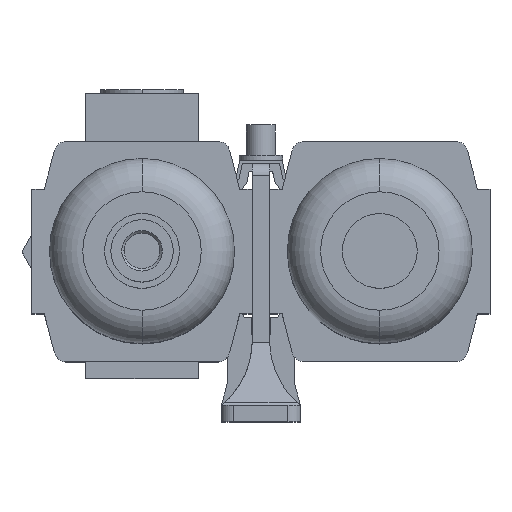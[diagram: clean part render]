
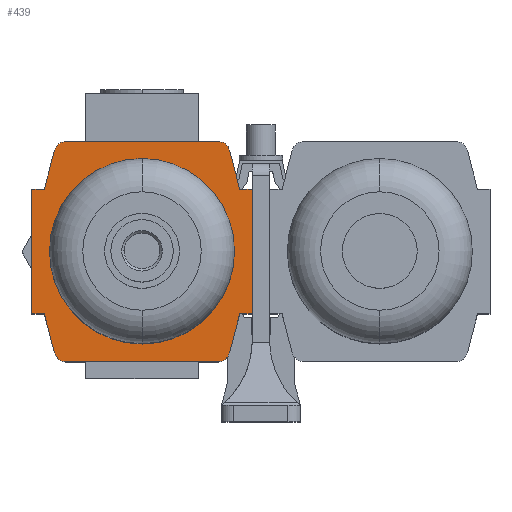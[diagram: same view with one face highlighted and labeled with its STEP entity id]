
A CAD part, top view. The second image highlights one B-rep face of the part: STEP entity #439.
In plain terms, the highlighted planar face has unit normal (0, 0, 1).
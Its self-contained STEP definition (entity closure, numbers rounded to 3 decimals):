
#148 = EDGE_CURVE ( 'NONE', #12002, #756, #15115, .T. ) ;
#219 = CARTESIAN_POINT ( 'NONE',  ( 26.5, 15., 0. ) ) ;
#250 = VERTEX_POINT ( 'NONE', #15457 ) ;
#423 = CIRCLE ( 'NONE', #1810, 3. ) ;
#431 = CARTESIAN_POINT ( 'NONE',  ( -23.5, 15., 0. ) ) ;
#439 = ADVANCED_FACE ( 'NONE', ( #6471, #4460 ), #3166, .F. ) ;
#461 = DIRECTION ( 'NONE',  ( 1., 0., 0. ) ) ;
#506 = CARTESIAN_POINT ( 'NONE',  ( -26.5, -15., 0. ) ) ;
#672 = CIRCLE ( 'NONE', #3128, 3. ) ;
#756 = VERTEX_POINT ( 'NONE', #1523 ) ;
#804 = DIRECTION ( 'NONE',  ( 1., 0., 0. ) ) ;
#1038 = VECTOR ( 'NONE', #4096, 1000. ) ;
#1290 = CIRCLE ( 'NONE', #2929, 15. ) ;
#1319 = CARTESIAN_POINT ( 'NONE',  ( 26.5, -15., 0. ) ) ;
#1473 = VERTEX_POINT ( 'NONE', #8000 ) ;
#1523 = CARTESIAN_POINT ( 'NONE',  ( -21.085, 24.257, 0. ) ) ;
#1556 = ORIENTED_EDGE ( 'NONE', *, *, #5618, .F. ) ;
#1715 = VECTOR ( 'NONE', #11298, 1000. ) ;
#1810 = AXIS2_PLACEMENT_3D ( 'NONE', #3086, #7869, #13709 ) ;
#1880 = ORIENTED_EDGE ( 'NONE', *, *, #2439, .F. ) ;
#1963 = DIRECTION ( 'NONE',  ( 0., 0., -1. ) ) ;
#1969 = EDGE_CURVE ( 'NONE', #8671, #2712, #16013, .T. ) ;
#2100 = ORIENTED_EDGE ( 'NONE', *, *, #10538, .T. ) ;
#2185 = LINE ( 'NONE', #4603, #9982 ) ;
#2281 = CARTESIAN_POINT ( 'NONE',  ( -21.085, -24.257, 0. ) ) ;
#2439 = EDGE_CURVE ( 'NONE', #9685, #14441, #16723, .T. ) ;
#2561 = VERTEX_POINT ( 'NONE', #10715 ) ;
#2567 = AXIS2_PLACEMENT_3D ( 'NONE', #6457, #11465, #14053 ) ;
#2712 = VERTEX_POINT ( 'NONE', #1319 ) ;
#2764 = CARTESIAN_POINT ( 'NONE',  ( -18.182, 26.5, 0. ) ) ;
#2799 = EDGE_CURVE ( 'NONE', #1473, #10179, #10534, .T. ) ;
#2847 = ORIENTED_EDGE ( 'NONE', *, *, #5612, .F. ) ;
#2929 = AXIS2_PLACEMENT_3D ( 'NONE', #11857, #15758, #12987 ) ;
#2970 = EDGE_CURVE ( 'NONE', #2712, #1473, #12421, .T. ) ;
#3086 = CARTESIAN_POINT ( 'NONE',  ( 18.182, -23.5, 0. ) ) ;
#3128 = AXIS2_PLACEMENT_3D ( 'NONE', #9583, #12340, #9661 ) ;
#3166 = PLANE ( 'NONE',  #13594 ) ;
#3277 = CARTESIAN_POINT ( 'NONE',  ( -18.182, 26.5, 0. ) ) ;
#3390 = CIRCLE ( 'NONE', #13034, 15. ) ;
#3596 = ORIENTED_EDGE ( 'NONE', *, *, #148, .F. ) ;
#3608 = CARTESIAN_POINT ( 'NONE',  ( 0., 0., 0. ) ) ;
#3659 = ORIENTED_EDGE ( 'NONE', *, *, #8155, .F. ) ;
#3670 = EDGE_CURVE ( 'NONE', #9771, #9685, #13067, .T. ) ;
#3683 = VECTOR ( 'NONE', #5694, 1000. ) ;
#3717 = CARTESIAN_POINT ( 'NONE',  ( -23.5, 15., 0. ) ) ;
#3911 = DIRECTION ( 'NONE',  ( -1., 0., 0. ) ) ;
#4096 = DIRECTION ( 'NONE',  ( 0., -1., 0. ) ) ;
#4460 = FACE_BOUND ( 'NONE', #8125, .T. ) ;
#4497 = ORIENTED_EDGE ( 'NONE', *, *, #12475, .F. ) ;
#4603 = CARTESIAN_POINT ( 'NONE',  ( -26.5, 15., 0. ) ) ;
#4995 = CARTESIAN_POINT ( 'NONE',  ( 23.5, 15., 0. ) ) ;
#5071 = DIRECTION ( 'NONE',  ( -1., 0., 0. ) ) ;
#5369 = VECTOR ( 'NONE', #8418, 1000. ) ;
#5612 = EDGE_CURVE ( 'NONE', #250, #9833, #16410, .T. ) ;
#5618 = EDGE_CURVE ( 'NONE', #11771, #13873, #9845, .T. ) ;
#5626 = VERTEX_POINT ( 'NONE', #12679 ) ;
#5694 = DIRECTION ( 'NONE',  ( 0.252, 0.968, 0. ) ) ;
#5746 = CARTESIAN_POINT ( 'NONE',  ( 18.182, 26.5, 0. ) ) ;
#5780 = ORIENTED_EDGE ( 'NONE', *, *, #11442, .F. ) ;
#5868 = DIRECTION ( 'NONE',  ( -1., 0., 0. ) ) ;
#6261 = CARTESIAN_POINT ( 'NONE',  ( 18.182, -26.5, 0. ) ) ;
#6457 = CARTESIAN_POINT ( 'NONE',  ( 18.182, 23.5, 0. ) ) ;
#6471 = FACE_OUTER_BOUND ( 'NONE', #13050, .T. ) ;
#6509 = VECTOR ( 'NONE', #7913, 1000. ) ;
#7020 = DIRECTION ( 'NONE',  ( 0., 0., -1. ) ) ;
#7083 = ORIENTED_EDGE ( 'NONE', *, *, #8191, .F. ) ;
#7301 = VERTEX_POINT ( 'NONE', #14748 ) ;
#7409 = ORIENTED_EDGE ( 'NONE', *, *, #9779, .F. ) ;
#7507 = ORIENTED_EDGE ( 'NONE', *, *, #2970, .F. ) ;
#7662 = CARTESIAN_POINT ( 'NONE',  ( 26.5, -15., 0. ) ) ;
#7869 = DIRECTION ( 'NONE',  ( 0., 0., -1. ) ) ;
#7913 = DIRECTION ( 'NONE',  ( 1., 0., 0. ) ) ;
#7933 = EDGE_CURVE ( 'NONE', #14441, #250, #9622, .T. ) ;
#8000 = CARTESIAN_POINT ( 'NONE',  ( 23.5, -15., 0. ) ) ;
#8094 = VECTOR ( 'NONE', #13382, 1000. ) ;
#8125 = EDGE_LOOP ( 'NONE', ( #2100, #13664 ) ) ;
#8155 = EDGE_CURVE ( 'NONE', #756, #11771, #672, .T. ) ;
#8191 = EDGE_CURVE ( 'NONE', #5626, #13921, #14853, .T. ) ;
#8279 = CARTESIAN_POINT ( 'NONE',  ( 21.085, 24.257, 0. ) ) ;
#8418 = DIRECTION ( 'NONE',  ( -0.252, 0.968, 0. ) ) ;
#8434 = CARTESIAN_POINT ( 'NONE',  ( -18.182, 23.5, 0. ) ) ;
#8507 = CARTESIAN_POINT ( 'NONE',  ( 23.5, 15., 0. ) ) ;
#8671 = VERTEX_POINT ( 'NONE', #13886 ) ;
#8744 = CARTESIAN_POINT ( 'NONE',  ( -21.085, -24.257, 0. ) ) ;
#9117 = DIRECTION ( 'NONE',  ( 0., 0., -1. ) ) ;
#9186 = DIRECTION ( 'NONE',  ( 0., 1., 0. ) ) ;
#9213 = LINE ( 'NONE', #4995, #6509 ) ;
#9423 = CARTESIAN_POINT ( 'NONE',  ( -18.182, -23.5, 0. ) ) ;
#9459 = CARTESIAN_POINT ( 'NONE',  ( 21.085, -24.257, 0. ) ) ;
#9583 = CARTESIAN_POINT ( 'NONE',  ( -18.182, 23.5, 0. ) ) ;
#9622 = LINE ( 'NONE', #8744, #5369 ) ;
#9661 = DIRECTION ( 'NONE',  ( 1., 0., 0. ) ) ;
#9685 = VERTEX_POINT ( 'NONE', #15660 ) ;
#9702 = VECTOR ( 'NONE', #5868, 1000. ) ;
#9771 = VERTEX_POINT ( 'NONE', #14434 ) ;
#9779 = EDGE_CURVE ( 'NONE', #10179, #9771, #423, .T. ) ;
#9833 = VERTEX_POINT ( 'NONE', #506 ) ;
#9845 = LINE ( 'NONE', #3277, #1715 ) ;
#9982 = VECTOR ( 'NONE', #804, 1000. ) ;
#10070 = ORIENTED_EDGE ( 'NONE', *, *, #2799, .F. ) ;
#10107 = EDGE_CURVE ( 'NONE', #13921, #8671, #9213, .T. ) ;
#10112 = CARTESIAN_POINT ( 'NONE',  ( -23.5, -15., 0. ) ) ;
#10179 = VERTEX_POINT ( 'NONE', #9459 ) ;
#10534 = LINE ( 'NONE', #15813, #16142 ) ;
#10538 = EDGE_CURVE ( 'NONE', #2561, #7301, #1290, .T. ) ;
#10715 = CARTESIAN_POINT ( 'NONE',  ( -15., 0., 0. ) ) ;
#11298 = DIRECTION ( 'NONE',  ( 1., 0., 0. ) ) ;
#11442 = EDGE_CURVE ( 'NONE', #13110, #12002, #2185, .T. ) ;
#11465 = DIRECTION ( 'NONE',  ( 0., 0., -1. ) ) ;
#11597 = ORIENTED_EDGE ( 'NONE', *, *, #1969, .F. ) ;
#11602 = VECTOR ( 'NONE', #5071, 1000. ) ;
#11771 = VERTEX_POINT ( 'NONE', #2764 ) ;
#11851 = ORIENTED_EDGE ( 'NONE', *, *, #14047, .F. ) ;
#11857 = CARTESIAN_POINT ( 'NONE',  ( 0., 0., 0. ) ) ;
#12002 = VERTEX_POINT ( 'NONE', #3717 ) ;
#12246 = VECTOR ( 'NONE', #9186, 1000. ) ;
#12340 = DIRECTION ( 'NONE',  ( 0., 0., -1. ) ) ;
#12401 = EDGE_CURVE ( 'NONE', #7301, #2561, #3390, .T. ) ;
#12421 = LINE ( 'NONE', #7662, #11602 ) ;
#12430 = ORIENTED_EDGE ( 'NONE', *, *, #3670, .F. ) ;
#12475 = EDGE_CURVE ( 'NONE', #13873, #5626, #14971, .T. ) ;
#12679 = CARTESIAN_POINT ( 'NONE',  ( 21.085, 24.257, 0. ) ) ;
#12923 = DIRECTION ( 'NONE',  ( 1., 0., 0. ) ) ;
#12971 = ORIENTED_EDGE ( 'NONE', *, *, #7933, .F. ) ;
#12987 = DIRECTION ( 'NONE',  ( 1., 0., 0. ) ) ;
#13034 = AXIS2_PLACEMENT_3D ( 'NONE', #3608, #9117, #12923 ) ;
#13050 = EDGE_LOOP ( 'NONE', ( #11851, #2847, #12971, #1880, #12430, #7409, #10070, #7507, #11597, #14539, #7083, #4497, #1556, #3659, #3596, #5780 ) ) ;
#13067 = LINE ( 'NONE', #6261, #16027 ) ;
#13110 = VERTEX_POINT ( 'NONE', #15060 ) ;
#13382 = DIRECTION ( 'NONE',  ( 0.252, -0.968, 0. ) ) ;
#13436 = DIRECTION ( 'NONE',  ( 1., 0., 0. ) ) ;
#13594 = AXIS2_PLACEMENT_3D ( 'NONE', #8434, #1963, #13436 ) ;
#13664 = ORIENTED_EDGE ( 'NONE', *, *, #12401, .T. ) ;
#13709 = DIRECTION ( 'NONE',  ( 1., 0., 0. ) ) ;
#13873 = VERTEX_POINT ( 'NONE', #5746 ) ;
#13886 = CARTESIAN_POINT ( 'NONE',  ( 26.5, 15., 0. ) ) ;
#13921 = VERTEX_POINT ( 'NONE', #8507 ) ;
#14047 = EDGE_CURVE ( 'NONE', #9833, #13110, #14210, .T. ) ;
#14053 = DIRECTION ( 'NONE',  ( 1., 0., 0. ) ) ;
#14210 = LINE ( 'NONE', #15513, #12246 ) ;
#14434 = CARTESIAN_POINT ( 'NONE',  ( 18.182, -26.5, 0. ) ) ;
#14441 = VERTEX_POINT ( 'NONE', #2281 ) ;
#14514 = DIRECTION ( 'NONE',  ( -0.252, -0.968, 0. ) ) ;
#14539 = ORIENTED_EDGE ( 'NONE', *, *, #10107, .F. ) ;
#14748 = CARTESIAN_POINT ( 'NONE',  ( 15., 0., 0. ) ) ;
#14853 = LINE ( 'NONE', #8279, #8094 ) ;
#14971 = CIRCLE ( 'NONE', #2567, 3. ) ;
#15060 = CARTESIAN_POINT ( 'NONE',  ( -26.5, 15., 0. ) ) ;
#15115 = LINE ( 'NONE', #431, #3683 ) ;
#15457 = CARTESIAN_POINT ( 'NONE',  ( -23.5, -15., 0. ) ) ;
#15513 = CARTESIAN_POINT ( 'NONE',  ( -26.5, -15., 0. ) ) ;
#15660 = CARTESIAN_POINT ( 'NONE',  ( -18.182, -26.5, 0. ) ) ;
#15758 = DIRECTION ( 'NONE',  ( 0., 0., -1. ) ) ;
#15813 = CARTESIAN_POINT ( 'NONE',  ( 23.5, -15., 0. ) ) ;
#16013 = LINE ( 'NONE', #219, #1038 ) ;
#16027 = VECTOR ( 'NONE', #3911, 1000. ) ;
#16142 = VECTOR ( 'NONE', #14514, 1000. ) ;
#16155 = AXIS2_PLACEMENT_3D ( 'NONE', #9423, #7020, #461 ) ;
#16410 = LINE ( 'NONE', #10112, #9702 ) ;
#16723 = CIRCLE ( 'NONE', #16155, 3. ) ;
